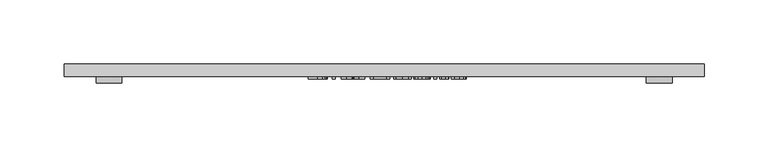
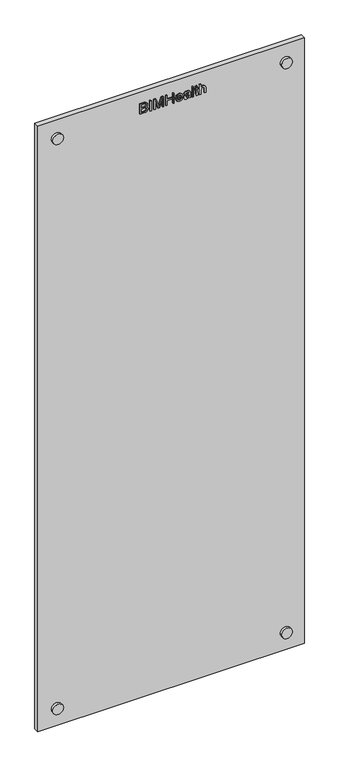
"""IFC4 building model written with IfcOpenShell, lengths in millimetres: furniture geometry, BIMHealth-Mirror_Consultation-LOD2A-v1 : BIMHealth-Mirror_Consultation-LOD2A-v1."""

from ifc_helpers import new_model, si_unit, point, frame, frame_2d, origin, place, context, project, spatial, polyline, circle_curve, trimmed, segment, composite_curve, outline, extrude, source, transform, mapped, element, save


def furniture_d8de0f4c(model_context):
    return source(origin(), model_context, "Body", "SweptSolid", [
        extrude(outline(composite_curve([segment(trimmed(circle_curve(frame_2d((2065.0, 465.0)), 10.0), [point((2065.0, 475.0))], [point((2065.0, 455.0))], False, "CARTESIAN"), True, "CONTINUOUS"), segment(trimmed(circle_curve(frame_2d((2065.0, 465.0)), 10.0), [point((2065.0, 455.0))], [point((2065.0, 475.0))], False, "CARTESIAN"), True, "CONTINUOUS")], self_intersect=False)), frame((0.0, -15.0, 0.0), z_axis=(0.0, 1.0, 0.0), x_axis=(0.0, 0.0, 1.0)), (0.0, 0.0, 1.0), 5.0),
        extrude(outline(composite_curve([segment(trimmed(circle_curve(frame_2d((2065.0, 35.0)), 10.0), [point((2065.0, 25.0))], [point((2065.0, 45.0))], False, "CARTESIAN"), True, "CONTINUOUS"), segment(trimmed(circle_curve(frame_2d((2065.0, 35.0)), 10.0), [point((2065.0, 45.0))], [point((2065.0, 25.0))], False, "CARTESIAN"), True, "CONTINUOUS")], self_intersect=False)), frame((0.0, -15.0, 0.0), z_axis=(0.0, 1.0, 0.0), x_axis=(0.0, 0.0, 1.0)), (0.0, 0.0, 1.0), 5.0),
        extrude(outline(composite_curve([segment(trimmed(circle_curve(frame_2d((935.0, 465.0)), 10.0), [point((935.0, 475.0))], [point((935.0, 455.0))], False, "CARTESIAN"), True, "CONTINUOUS"), segment(trimmed(circle_curve(frame_2d((935.0, 465.0)), 10.0), [point((935.0, 455.0))], [point((935.0, 475.0))], False, "CARTESIAN"), True, "CONTINUOUS")], self_intersect=False)), frame((0.0, -15.0, 0.0), z_axis=(0.0, 1.0, 0.0), x_axis=(0.0, 0.0, 1.0)), (0.0, 0.0, 1.0), 5.0),
        extrude(outline(composite_curve([segment(trimmed(circle_curve(frame_2d((935.0, 35.0)), 10.0), [point((935.0, 25.0))], [point((935.0, 45.0))], False, "CARTESIAN"), True, "CONTINUOUS"), segment(trimmed(circle_curve(frame_2d((935.0, 35.0)), 10.0), [point((935.0, 45.0))], [point((935.0, 25.0))], False, "CARTESIAN"), True, "CONTINUOUS")], self_intersect=False)), frame((0.0, -15.0, 0.0), z_axis=(0.0, 1.0, 0.0), x_axis=(0.0, 0.0, 1.0)), (0.0, 0.0, 1.0), 5.0),
        extrude(outline(polyline([(2058.1281714, 190.9218597), (2058.1281714, 198.3785905), (2058.4671137, 201.5348405), (2059.4671137, 203.6766674), (2061.3517291, 205.1117636), (2063.9983637, 205.6910905), (2067.0608637, 204.8425328), (2068.8974022, 202.417052), (2070.6401907, 204.4146482), (2072.9406714, 205.0757059), (2075.4599022, 204.2896482), (2077.2411522, 202.1165712), (2077.8204791, 198.4362828), (2077.8204791, 190.9218597), (2058.1281714, 190.9218597)]), holes=[polyline([(2069.8204791, 193.3833982), (2075.3589407, 193.3833982), (2075.3589407, 197.5372443), (2075.1017291, 200.7007059), (2074.1522099, 202.1189751), (2072.5464407, 202.6141674), (2070.9430753, 202.0829174), (2070.0320176, 200.5035905), (2069.8204791, 197.8785905), (2069.8204791, 193.3833982)]), polyline([(2060.5897099, 193.3833982), (2067.3589407, 193.3833982), (2067.3589407, 198.1910905), (2067.0296137, 201.2319559), (2065.8877868, 202.7583982), (2063.9743253, 203.229552), (2061.2219214, 201.8040712), (2060.6858637, 200.2583982), (2060.5897099, 198.4314751), (2060.5897099, 193.3833982)])]), frame((0.0, -12.0, 0.0), z_axis=(0.0, 1.0, 0.0), x_axis=(0.0, 0.0, 1.0)), (0.0, 0.0, 1.0), 2.0),
        extrude(outline(polyline([(211.8449366, -12.0), (209.3833982, -12.0), (209.3833982, -10.0), (211.8449366, -10.0), (211.8449366, -12.0)])), frame((0.0, 0.0, 2058.1281714), z_axis=(0.0, 0.0, 1.0), x_axis=(1.0, 0.0, 0.0)), (0.0, 0.0, 1.0), 19.6923077),
        extrude(outline(polyline([(2058.1281714, 216.7680136), (2058.1281714, 219.229552), (2075.3589407, 219.229552), (2058.1281714, 224.1814751), (2058.1281714, 227.5132059), (2075.3589407, 232.4603212), (2058.1281714, 232.4603212), (2058.1281714, 234.9218597), (2077.8204791, 234.9218597), (2077.8204791, 230.6862828), (2064.181056, 226.7247443), (2061.041633, 225.8449366), (2063.9406714, 225.0276289), (2077.8204791, 220.9891674), (2077.8204791, 216.7680136), (2058.1281714, 216.7680136)])), frame((0.0, -12.0, 0.0), z_axis=(0.0, 1.0, 0.0), x_axis=(0.0, 0.0, 1.0)), (0.0, 0.0, 1.0), 2.0),
        extrude(outline(polyline([(2058.1281714, 239.229552), (2058.1281714, 241.6910905), (2067.3589407, 241.6910905), (2067.3589407, 252.1526289), (2058.1281714, 252.1526289), (2058.1281714, 254.6141674), (2077.8204791, 254.6141674), (2077.8204791, 252.1526289), (2069.8204791, 252.1526289), (2069.8204791, 241.6910905), (2077.8204791, 241.6910905), (2077.8204791, 239.229552), (2058.1281714, 239.229552)])), frame((0.0, -12.0, 0.0), z_axis=(0.0, 1.0, 0.0), x_axis=(0.0, 0.0, 1.0)), (0.0, 0.0, 1.0), 2.0),
        extrude(outline(polyline([(2062.4358637, 268.7391674), (2060.7964407, 267.1526289), (2060.2820176, 264.7391674), (2061.3925945, 261.5684943), (2064.5897099, 260.1526289), (2065.2531714, 271.229552), (2070.8925945, 269.3617636), (2072.8974022, 264.5516674), (2070.8877868, 259.5997443), (2065.2387484, 257.6910905), (2059.7699984, 259.5805136), (2057.8204791, 264.6910905), (2058.9502868, 268.8954174), (2062.1281714, 271.1526289), (2062.4358637, 268.7391674)]), holes=[polyline([(2067.0512484, 260.1526289), (2069.5151907, 261.510802), (2070.4358637, 264.542052), (2069.2820176, 267.7824366), (2067.0512484, 268.7680136), (2067.0512484, 260.1526289)])]), frame((0.0, -12.0, 0.0), z_axis=(0.0, 1.0, 0.0), x_axis=(0.0, 0.0, 1.0)), (0.0, 0.0, 1.0), 2.0),
        extrude(outline(polyline([(2059.9743253, 282.9218597), (2058.1281714, 283.5372443), (2058.1281714, 285.9987828), (2060.197883, 285.5083982), (2064.4743253, 285.3833982), (2067.5368253, 285.3833982), (2069.6906714, 285.2632059), (2071.3613445, 284.5083982), (2072.4599022, 282.823302), (2072.8974022, 279.8401289), (2072.4022099, 276.5925328), (2070.993556, 274.448302), (2068.5897099, 273.3833982), (2068.2820176, 275.8449366), (2069.962306, 277.0324366), (2070.4358637, 279.5228212), (2069.7243253, 282.2439751), (2067.3589407, 282.9074366), (2066.5127868, 278.6382059), (2066.1425945, 276.5083982), (2065.3349022, 274.7848405), (2063.9214407, 273.5468597), (2061.9743253, 273.0757059), (2058.9887484, 274.323302), (2057.8204791, 277.8978212), (2058.306056, 280.5348405), (2059.9743253, 282.9218597)]), holes=[polyline([(2064.5488445, 282.9146482), (2062.2964407, 282.5180136), (2060.8709599, 280.9122443), (2060.2820176, 278.4218597), (2063.743556, 276.8329174), (2064.1425945, 278.9507059), (2064.5488445, 282.9146482)])]), frame((0.0, -12.0, 0.0), z_axis=(0.0, 1.0, 0.0), x_axis=(0.0, 0.0, 1.0)), (0.0, 0.0, 1.0), 2.0),
        extrude(outline(polyline([(291.229552, -12.0), (288.7680136, -12.0), (288.7680136, -10.0), (291.229552, -10.0), (291.229552, -12.0)])), frame((0.0, 0.0, 2058.1281714), z_axis=(0.0, 0.0, 1.0), x_axis=(1.0, 0.0, 0.0)), (0.0, 0.0, 1.0), 19.6923077),
        extrude(outline(polyline([(2061.1738445, 298.9218597), (2070.1281714, 297.6910905), (2070.1281714, 300.1526289), (2072.5897099, 300.1526289), (2072.5897099, 297.6910905), (2077.5512484, 297.6910905), (2076.104133, 295.229552), (2072.5897099, 295.229552), (2072.5897099, 293.3833982), (2070.1281714, 293.3833982), (2070.1281714, 295.229552), (2062.0945176, 295.229552), (2058.229133, 296.5564751), (2057.8204791, 298.6189751), (2058.056056, 300.4603212), (2061.1738445, 298.9218597)])), frame((0.0, -12.0, 0.0), z_axis=(0.0, 1.0, 0.0), x_axis=(0.0, 0.0, 1.0)), (0.0, 0.0, 1.0), 2.0),
        extrude(outline(polyline([(2058.1281714, 302.6141674), (2058.1281714, 305.0757059), (2065.8108637, 305.0757059), (2068.4022099, 305.4771482), (2069.8877868, 306.823302), (2070.4358637, 308.8401289), (2069.6233637, 311.0612828), (2067.0272099, 311.8449366), (2058.1281714, 311.8449366), (2058.1281714, 314.3064751), (2067.2820176, 314.3064751), (2070.5175945, 313.8016674), (2072.2651907, 312.1237828), (2072.8974022, 309.3593597), (2070.5800945, 305.0757059), (2077.8204791, 305.0757059), (2077.8204791, 302.6141674), (2058.1281714, 302.6141674)])), frame((0.0, -12.0, 0.0), z_axis=(0.0, 1.0, 0.0), x_axis=(0.0, 0.0, 1.0)), (0.0, 0.0, 1.0), 2.0),
        extrude(outline(polyline([(500.0, -10.0), (0.0, -10.0), (0.0, 0.0), (500.0, 0.0), (500.0, -10.0)])), frame((0.0, 0.0, 900.0), z_axis=(0.0, 0.0, 1.0), x_axis=(1.0, 0.0, 0.0)), (0.0, 0.0, 1.0), 1200.0),
    ])


if __name__ == "__main__":
    model = new_model("IFC4")
    model_context = context("Model", 3, world=origin())
    ifc_project = project(units=[si_unit("LENGTHUNIT", "METRE", prefix="MILLI")], contexts=[model_context])
    site = spatial("IfcSite", under=ifc_project)
    building = spatial("IfcBuilding", under=site)
    placement = place(None, origin())
    furniture_shape = furniture_d8de0f4c(model_context)
    element("IfcFurniture", 1, ObjectType="BIMHealth-Mirror_Consultation-LOD2A-v1 : BIMHealth-Mirror_Consultation-LOD2A-v1", at=placement, inside=building, context=model_context, shape_type="MappedRepresentation", body=[
        mapped(furniture_shape, transform((0.0, 0.0, 0.0), x_axis=(1.0, 0.0, 0.0), y_axis=(0.0, 1.0, 0.0), z_axis=(0.0, 0.0, 1.0))),
    ])
    save(model, "model.ifc")
